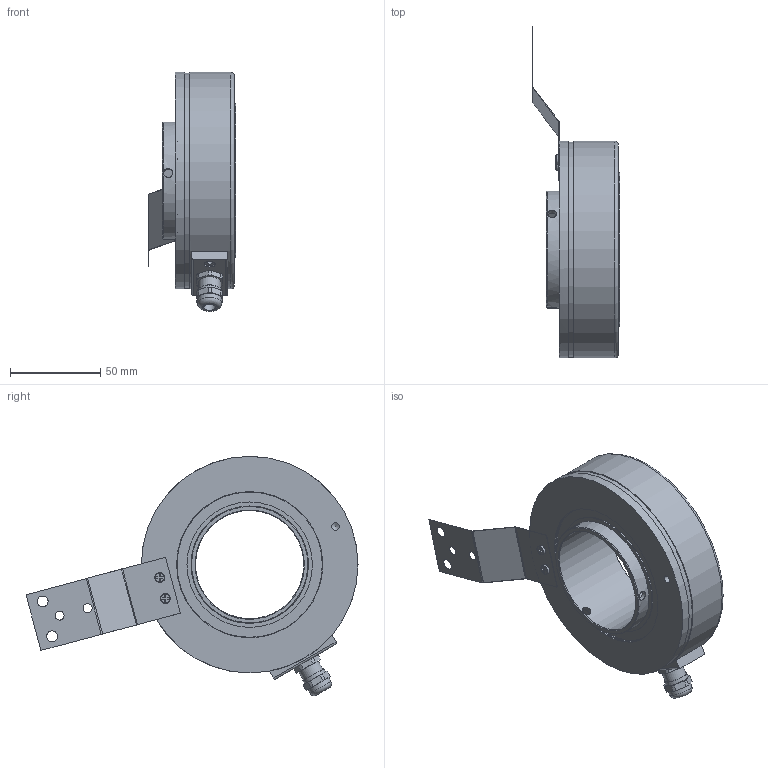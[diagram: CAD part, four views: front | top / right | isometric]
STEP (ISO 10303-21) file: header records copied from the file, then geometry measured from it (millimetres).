
FILE_DESCRIPTION( ( 'Unknown' ), '1' );
FILE_NAME( 'C:/Users/malfermoa/Desktop/step/EL120P.stp', 'Unknown', ( 'Unknown' ), ( 'Unknown' ), 'PSStep 15.0.49', 'Unknown', ' ' );
FILE_SCHEMA( ( 'AUTOMOTIVE_DESIGN { 1 0 10303 214 1 1 1 1 }' ) );
Length unit declared in the file: millimetre
Products named in the file (1): 23300036 - UNI 6107 M3x4 TC-oa3
Bounding box: 48.55 x 183.92 x 132.56 mm (x, y, z)
Volume: 179397.3 mm3; surface area: 83395.5 mm2
Topology: 1 solids, 8 shells, 278 faces, 651 edges, 435 vertices
Faces by surface type: plane 124, cylinder 112, cone 29, torus 7, sphere 6
Full cylindrical faces by diameter (mm): 2.013 x2, 2.459 x3, 2.5 x10, 3 x2, 3.2 x2, 4 x2, 4.2 x1, 4.8 x3, 5 x5, 5.3 x3, 6 x2, 6.2 x2, 6.5 x1, 7.2 x3, 9 x3, 9.4 x3, 12.3 x2, 12.5 x1, 13.3 x2, 60 x1, 65 x3, 69.5 x4, 70 x2, 78.4 x1, 80.5 x4, 81 x1, 85 x5, 114.4 x1, 117 x3, 119 x1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
Entity records: 9637 total; most frequent: CARTESIAN_POINT 1602, DIRECTION 1260, ORIENTED_EDGE 938, AXIS2_PLACEMENT_3D 531, EDGE_LOOP 469, EDGE_CURVE 469, VERTEX_POINT 386, FACE_OUTER_BOUND 365
